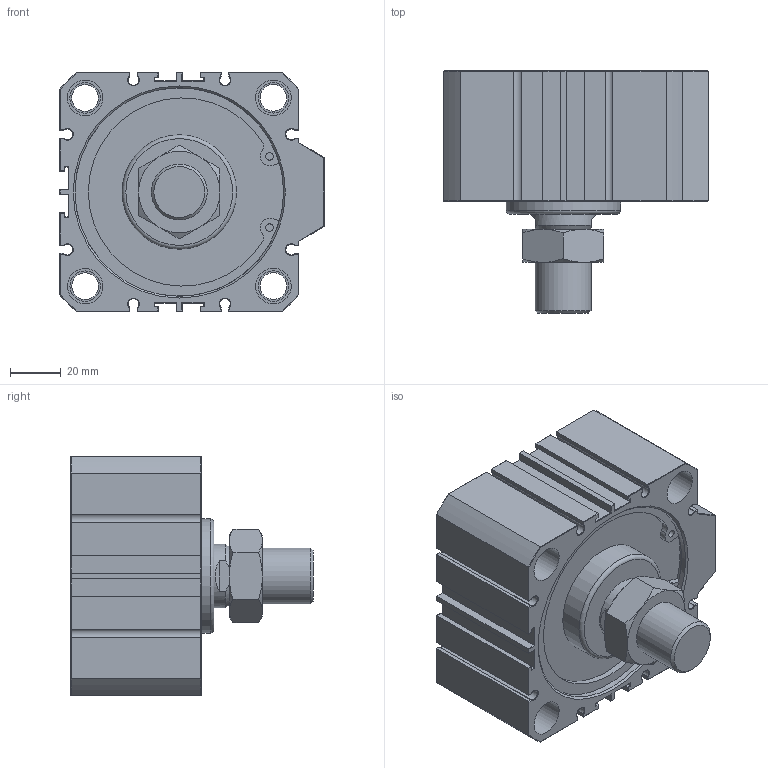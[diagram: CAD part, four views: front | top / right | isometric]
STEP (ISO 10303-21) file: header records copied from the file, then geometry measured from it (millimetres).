
FILE_DESCRIPTION(/* description */ (''),/* implementation_level */ '2;1');
FILE_NAME(/* name */ 'AJC-SD80X10W',/* time_stamp */ '2019-06-18T15:55:43+08:00',/* author */ ('JEFF HUANG'),/* organization */ ('TAIWAN AMAC CLAMP INDUSTRIAL CO., LTD.'),/* preprocessor_version */ 'ST-DEVELOPER v16.7',/* originating_system */ 'DEX',/* authorisation */ $);
FILE_SCHEMA (('AUTOMOTIVE_DESIGN {1 0 10303 214 3 1 1}'));
Length unit declared in the file: millimetre
Products named in the file (1): AJC-SD80X10W
Bounding box: 104 x 95.3 x 94 mm (x, y, z)
Volume: 414774.3 mm3; surface area: 61173.7 mm2
Topology: 1 solids, 1 shells, 402 faces, 899 edges, 496 vertices
Faces by surface type: plane 253, cone 75, cylinder 72, torus 2
Full cylindrical faces by diameter (mm): 3 x4, 10.5 x4, 12 x8, 14 x8, 15.806 x2, 22 x1, 25 x1, 45 x1, 50 x1, 82 x2
Entity records: 13214 total; most frequent: CARTESIAN_POINT 1861, DIRECTION 1780, ORIENTED_EDGE 1648, EDGE_CURVE 824, AXIS2_PLACEMENT_3D 597, LINE 586, VECTOR 586, VERTEX_POINT 492
